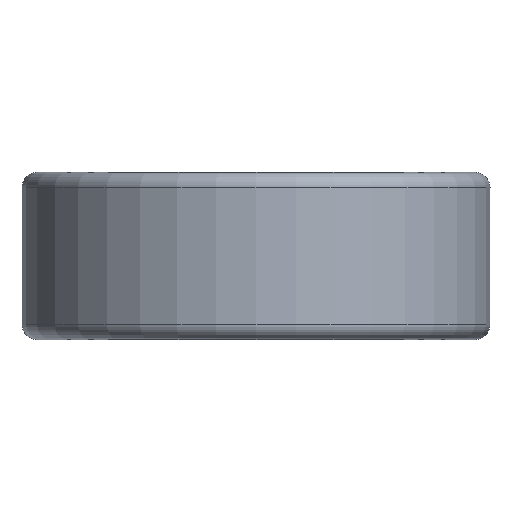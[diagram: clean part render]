
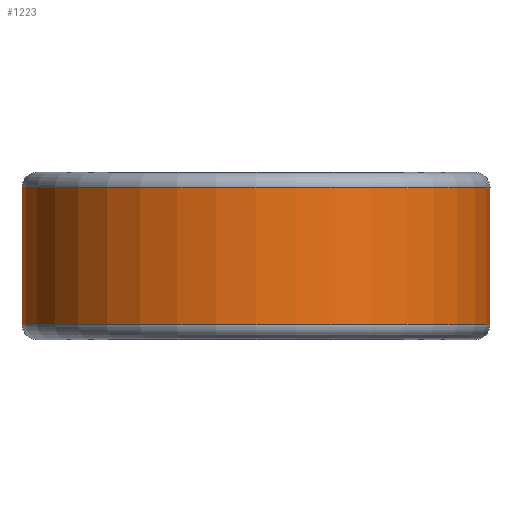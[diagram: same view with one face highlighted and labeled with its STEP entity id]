
A CAD part, left-side view. The second image highlights one B-rep face of the part: STEP entity #1223.
In plain terms, the highlighted cylindrical face has radius 21 mm (diameter 42 mm), a partial arc.
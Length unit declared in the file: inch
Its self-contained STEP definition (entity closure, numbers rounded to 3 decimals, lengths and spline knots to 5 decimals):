
#139=DIRECTION('',(0.,0.,1.));
#140=VECTOR('',#139,0.02187);
#141=CARTESIAN_POINT('',(0.78573,0.25725,
0.153));
#142=LINE('',#141,#140);
#143=CARTESIAN_POINT('',(0.78573,0.25725,
0.43755));
#144=CARTESIAN_POINT('',(0.77491,0.29029,
0.44939));
#145=CARTESIAN_POINT('',(0.75031,0.3514,
0.47076));
#146=CARTESIAN_POINT('',(0.70849,0.42884,
0.49289));
#147=CARTESIAN_POINT('',(0.6643,0.49406,
0.50502));
#148=CARTESIAN_POINT('',(0.62016,0.54806,
0.50746));
#149=CARTESIAN_POINT('',(0.57816,0.59188,
0.50114));
#150=CARTESIAN_POINT('',(0.54009,0.62657,
0.48745));
#151=CARTESIAN_POINT('',(0.50668,0.65371,
0.46781));
#152=CARTESIAN_POINT('',(0.47816,0.67472,
0.44326));
#153=CARTESIAN_POINT('',(0.45484,0.69056,
0.41469));
#154=CARTESIAN_POINT('',(0.43699,0.70192,
0.38291));
#155=CARTESIAN_POINT('',(0.42489,0.70926,
0.34876));
#156=CARTESIAN_POINT('',(0.41879,0.71286,
0.31313));
#157=CARTESIAN_POINT('',(0.41883,0.71284,
0.277));
#158=CARTESIAN_POINT('',(0.425,0.7092,
0.24138));
#159=CARTESIAN_POINT('',(0.43717,0.70181,
0.20725));
#160=CARTESIAN_POINT('',(0.45509,0.6904,
0.1755));
#161=CARTESIAN_POINT('',(0.47847,0.6745,
0.14697));
#162=CARTESIAN_POINT('',(0.50704,0.65343,
0.12248));
#163=CARTESIAN_POINT('',(0.54052,0.6262,
0.1029));
#164=CARTESIAN_POINT('',(0.57864,0.59142,
0.0893));
#165=CARTESIAN_POINT('',(0.6206,0.54756,
0.08308));
#166=CARTESIAN_POINT('',(0.66466,0.49357,
0.0856));
#167=CARTESIAN_POINT('',(0.70873,0.42842,
0.09776));
#168=CARTESIAN_POINT('',(0.75043,0.35112,
0.11989));
#169=CARTESIAN_POINT('',(0.77495,0.29018,
0.1412));
#170=CARTESIAN_POINT('',(0.78573,0.25725,
0.153));
#172=DIRECTION('',(0.,0.,1.));
#173=VECTOR('',#172,0.02187);
#174=CARTESIAN_POINT('',(0.78573,0.25725,
0.41568));
#175=LINE('',#174,#173);
#176=CARTESIAN_POINT('',(0.,0.,0.05315));
#177=DIRECTION('',(0.,0.,-1.));
#178=DIRECTION('',(0.999,-0.038,0.));
#179=AXIS2_PLACEMENT_3D('',#176,#177,#178);
#191=DIRECTION('',(0.,0.,-1.));
#192=VECTOR('',#191,0.24082);
#193=CARTESIAN_POINT('',(0.78573,0.25725,
0.41568));
#194=LINE('',#193,#192);
#263=CARTESIAN_POINT('',(0.82618,0.0313,
0.53741));
#273=DIRECTION('',(0.,0.,-1.));
#274=VECTOR('',#273,0.48426);
#275=CARTESIAN_POINT('',(0.82618,0.0313,
0.53741));
#276=LINE('',#275,#274);
#285=CARTESIAN_POINT('',(0.82618,0.0313,
0.05314));
#622=CARTESIAN_POINT('',(0.82618,-0.0313,
0.05314));
#632=DIRECTION('',(0.,0.,1.));
#633=VECTOR('',#632,0.48426);
#634=CARTESIAN_POINT('',(0.82618,-0.0313,
0.05314));
#635=LINE('',#634,#633);
#644=CARTESIAN_POINT('',(0.82618,-0.0313,
0.53741));
#694=CARTESIAN_POINT('',(0.,0.,0.5374));
#695=DIRECTION('',(0.,0.,1.));
#696=DIRECTION('',(0.999,0.038,0.));
#697=AXIS2_PLACEMENT_3D('',#694,#695,#696);
#719=CARTESIAN_POINT('',(0.63,-0.5354,0.39684));
#720=CARTESIAN_POINT('',(0.63829,-0.52564,
0.39684));
#721=CARTESIAN_POINT('',(0.65364,-0.50666,
0.39483));
#722=CARTESIAN_POINT('',(0.67289,-0.4807,
0.38801));
#723=CARTESIAN_POINT('',(0.68887,-0.45741,
0.37866));
#724=CARTESIAN_POINT('',(0.70187,-0.43714,
0.36766));
#725=CARTESIAN_POINT('',(0.71232,-0.41984,
0.35545));
#726=CARTESIAN_POINT('',(0.72055,-0.40548,
0.34213));
#727=CARTESIAN_POINT('',(0.72666,-0.3944,
0.32777));
#728=CARTESIAN_POINT('',(0.73071,-0.38682,
0.31176));
#729=CARTESIAN_POINT('',(0.73208,-0.38424,
0.29409));
#730=CARTESIAN_POINT('',(0.73032,-0.38753,
0.27672));
#731=CARTESIAN_POINT('',(0.72614,-0.39538,
0.26135));
#732=CARTESIAN_POINT('',(0.72005,-0.40638,
0.2475));
#733=CARTESIAN_POINT('',(0.7119,-0.42055,
0.23454));
#734=CARTESIAN_POINT('',(0.70148,-0.43776,
0.22251));
#735=CARTESIAN_POINT('',(0.68849,-0.458,
0.21162));
#736=CARTESIAN_POINT('',(0.67253,-0.48121,
0.20238));
#737=CARTESIAN_POINT('',(0.65336,-0.50702,
0.19566));
#738=CARTESIAN_POINT('',(0.63818,-0.52577,
0.19371));
#739=CARTESIAN_POINT('',(0.63,-0.5354,0.19371));
#749=CARTESIAN_POINT('',(0.63,-0.5354,0.19371));
#750=CARTESIAN_POINT('',(0.62174,-0.54512,
0.19371));
#751=CARTESIAN_POINT('',(0.60568,-0.5631,
0.19573));
#752=CARTESIAN_POINT('',(0.58403,-0.58543,
0.20378));
#753=CARTESIAN_POINT('',(0.56543,-0.60334,
0.21589));
#754=CARTESIAN_POINT('',(0.55047,-0.61696,
0.23098));
#755=CARTESIAN_POINT('',(0.5393,-0.6267,
0.24813));
#756=CARTESIAN_POINT('',(0.53196,-0.63292,
0.26647));
#757=CARTESIAN_POINT('',(0.52828,-0.63598,
0.2856));
#758=CARTESIAN_POINT('',(0.52829,-0.63597,
0.30504));
#759=CARTESIAN_POINT('',(0.53198,-0.6329,
0.32415));
#760=CARTESIAN_POINT('',(0.53931,-0.62669,
0.34243));
#761=CARTESIAN_POINT('',(0.55045,-0.61696,
0.35955));
#762=CARTESIAN_POINT('',(0.5654,-0.60337,
0.37464));
#763=CARTESIAN_POINT('',(0.58398,-0.58548,
0.38675));
#764=CARTESIAN_POINT('',(0.60565,-0.56314,
0.39481));
#765=CARTESIAN_POINT('',(0.62173,-0.54513,
0.39684));
#766=CARTESIAN_POINT('',(0.63,-0.5354,0.39684));
#800=CARTESIAN_POINT('',(0.78573,0.25725,
0.41568));
#802=VERTEX_POINT('',#800);
#806=CARTESIAN_POINT('',(0.78573,0.25725,
0.17487));
#807=VERTEX_POINT('',#806);
#854=VERTEX_POINT('',#622);
#855=VERTEX_POINT('',#644);
#866=VERTEX_POINT('',#263);
#868=VERTEX_POINT('',#285);
#881=CARTESIAN_POINT('',(0.78573,0.25725,
0.153));
#882=VERTEX_POINT('',#881);
#883=CARTESIAN_POINT('',(0.78573,0.25725,
0.43755));
#884=VERTEX_POINT('',#883);
#885=VERTEX_POINT('',#749);
#886=VERTEX_POINT('',#766);
#1194=CARTESIAN_POINT('',(0.,0.,0.59055));
#1195=DIRECTION('',(0.,0.,-1.));
#1196=DIRECTION('',(-1.,0.,0.));
#1197=AXIS2_PLACEMENT_3D('',#1194,#1195,#1196);
#1198=CYLINDRICAL_SURFACE('',#1197,0.82677);
#1200=ORIENTED_EDGE('',*,*,#1199,.T.);
#1202=ORIENTED_EDGE('',*,*,#1201,.F.);
#1204=ORIENTED_EDGE('',*,*,#1203,.T.);
#1206=ORIENTED_EDGE('',*,*,#1205,.F.);
#1207=EDGE_LOOP('',(#1200,#1202,#1204,#1206));
#1208=FACE_OUTER_BOUND('',#1207,.F.);
#1209=ORIENTED_EDGE('',*,*,#1180,.F.);
#1211=ORIENTED_EDGE('',*,*,#1210,.F.);
#1212=ORIENTED_EDGE('',*,*,#1176,.F.);
#1214=ORIENTED_EDGE('',*,*,#1213,.T.);
#1215=EDGE_LOOP('',(#1209,#1211,#1212,#1214));
#1216=FACE_BOUND('',#1215,.F.);
#1218=ORIENTED_EDGE('',*,*,#1217,.F.);
#1220=ORIENTED_EDGE('',*,*,#1219,.F.);
#1221=EDGE_LOOP('',(#1218,#1220));
#1222=FACE_BOUND('',#1221,.F.);
#171=B_SPLINE_CURVE_WITH_KNOTS('',3,(#143,#144,#145,#146,#147,#148,#149,#150,
#151,#152,#153,#154,#155,#156,#157,#158,#159,#160,#161,#162,#163,#164,#165,#166,
#167,#168,#169,#170),.UNSPECIFIED.,.F.,.F.,(4,1,1,1,1,1,1,1,1,1,1,1,1,1,1,1,1,1,
1,1,1,1,1,1,1,4),(0.,0.04,0.08,0.12,0.16,0.2,0.24,0.28,0.32,
0.36,0.4,0.44,0.48,0.52,0.56,0.6,0.64,0.68,0.72,0.76,
0.8,0.84,0.88,0.92,0.96,1.),.UNSPECIFIED.);
#180=CIRCLE('',#179,0.82677);
#698=CIRCLE('',#697,0.82677);
#740=B_SPLINE_CURVE_WITH_KNOTS('',3,(#719,#720,#721,#722,#723,#724,#725,#726,
#727,#728,#729,#730,#731,#732,#733,#734,#735,#736,#737,#738,#739),.UNSPECIFIED.,
.F.,.F.,(4,1,1,1,1,1,1,1,1,1,1,1,1,1,1,1,1,1,4),(0.,0.05556,
0.11111,0.16667,0.22222,0.27778,
0.33333,0.38889,0.44444,0.5,0.55556,
0.61111,0.66667,0.72222,0.77778,
0.83333,0.88889,0.94444,1.),.UNSPECIFIED.);
#767=B_SPLINE_CURVE_WITH_KNOTS('',3,(#749,#750,#751,#752,#753,#754,#755,#756,
#757,#758,#759,#760,#761,#762,#763,#764,#765,#766),.UNSPECIFIED.,.F.,.F.,(4,1,1,
1,1,1,1,1,1,1,1,1,1,1,1,4),(0.,0.06667,0.13333,0.2,
0.26667,0.33333,0.4,0.46667,0.53333,
0.6,0.66667,0.73333,0.8,0.86667,
0.93333,1.),.UNSPECIFIED.);
#1176=EDGE_CURVE('',#802,#884,#175,.T.);
#1180=EDGE_CURVE('',#882,#807,#142,.T.);
#1199=EDGE_CURVE('',#854,#868,#180,.T.);
#1201=EDGE_CURVE('',#866,#868,#276,.T.);
#1203=EDGE_CURVE('',#866,#855,#698,.T.);
#1205=EDGE_CURVE('',#854,#855,#635,.T.);
#1210=EDGE_CURVE('',#884,#882,#171,.T.);
#1213=EDGE_CURVE('',#802,#807,#194,.T.);
#1217=EDGE_CURVE('',#885,#886,#767,.T.);
#1219=EDGE_CURVE('',#886,#885,#740,.T.);
#1223=ADVANCED_FACE('',(#1208,#1216,#1222),#1198,.T.);
